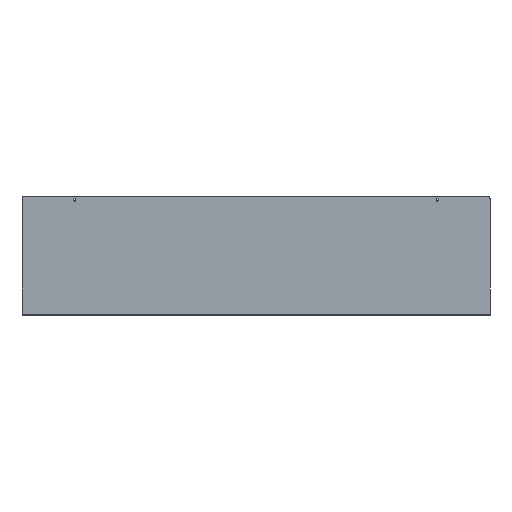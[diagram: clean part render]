
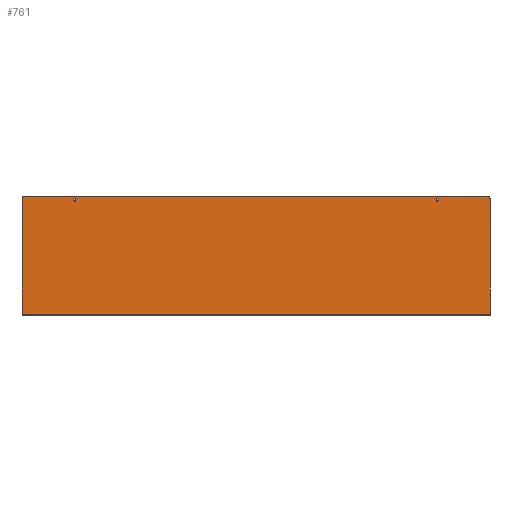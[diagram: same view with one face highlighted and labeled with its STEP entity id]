
A CAD part, top view. The second image highlights one B-rep face of the part: STEP entity #761.
In plain terms, the highlighted planar face has unit normal (0, 0, 1).
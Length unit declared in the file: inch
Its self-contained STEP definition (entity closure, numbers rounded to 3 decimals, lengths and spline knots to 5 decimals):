
#163=CARTESIAN_POINT('',(17.625,4.5,0.055));
#164=VERTEX_POINT('',#163);
#165=CARTESIAN_POINT('',(17.75,4.375,0.055));
#166=VERTEX_POINT('',#165);
#167=CARTESIAN_POINT('',(17.625,4.375,0.055));
#168=DIRECTION('',(0.0,0.0,-1.0));
#169=DIRECTION('',(0.707,0.707,0.0));
#170=AXIS2_PLACEMENT_3D('',#167,#168,#169);
#171=CIRCLE('',#170,0.125);
#172=EDGE_CURVE('',#164,#166,#171,.T.);
#214=CARTESIAN_POINT('',(-17.625,4.5,0.055));
#215=VERTEX_POINT('',#214);
#222=CARTESIAN_POINT('',(-17.625,4.5,0.055));
#223=DIRECTION('',(1.0,0.0,0.0));
#224=VECTOR('',#223,35.25);
#225=LINE('',#222,#224);
#226=EDGE_CURVE('',#215,#164,#225,.T.);
#299=CARTESIAN_POINT('',(-17.75,4.375,0.055));
#300=VERTEX_POINT('',#299);
#301=CARTESIAN_POINT('',(-17.625,4.375,0.055));
#302=DIRECTION('',(0.0,0.0,-1.0));
#303=DIRECTION('',(-0.707,0.707,0.0));
#304=AXIS2_PLACEMENT_3D('',#301,#302,#303);
#305=CIRCLE('',#304,0.125);
#306=EDGE_CURVE('',#300,#215,#305,.T.);
#326=CARTESIAN_POINT('',(-17.75,-4.414,0.055));
#327=VERTEX_POINT('',#326);
#334=CARTESIAN_POINT('',(-17.75,-4.414,0.055));
#335=DIRECTION('',(0.0,1.0,0.0));
#336=VECTOR('',#335,8.789);
#337=LINE('',#334,#336);
#338=EDGE_CURVE('',#327,#300,#337,.T.);
#558=CARTESIAN_POINT('',(-13.8385,4.25,0.055));
#559=VERTEX_POINT('',#558);
#560=CARTESIAN_POINT('',(-13.75,4.25,0.055));
#561=DIRECTION('',(0.0,0.0,-1.0));
#562=DIRECTION('',(1.0,0.0,0.0));
#563=AXIS2_PLACEMENT_3D('',#560,#561,#562);
#564=CIRCLE('',#563,0.0885);
#565=EDGE_CURVE('',#559,#559,#564,.T.);
#578=CARTESIAN_POINT('',(13.6615,4.25,0.055));
#579=VERTEX_POINT('',#578);
#580=CARTESIAN_POINT('',(13.75,4.25,0.055));
#581=DIRECTION('',(0.0,0.0,-1.0));
#582=DIRECTION('',(1.0,0.0,0.0));
#583=AXIS2_PLACEMENT_3D('',#580,#581,#582);
#584=CIRCLE('',#583,0.0885);
#585=EDGE_CURVE('',#579,#579,#584,.T.);
#647=CARTESIAN_POINT('',(17.75,-4.414,0.055));
#648=VERTEX_POINT('',#647);
#715=CARTESIAN_POINT('',(-17.75,-4.414,0.055));
#716=DIRECTION('',(1.0,0.0,0.0));
#717=VECTOR('',#716,35.5);
#718=LINE('',#715,#717);
#719=EDGE_CURVE('',#327,#648,#718,.T.);
#731=CARTESIAN_POINT('',(17.75,4.375,0.055));
#732=DIRECTION('',(0.0,-1.0,0.0));
#733=VECTOR('',#732,8.789);
#734=LINE('',#731,#733);
#735=EDGE_CURVE('',#166,#648,#734,.T.);
#742=CARTESIAN_POINT('',(0.0,0.,0.055));
#743=DIRECTION('',(0.0,0.0,1.0));
#744=DIRECTION('',(1.0,0.0,0.0));
#745=AXIS2_PLACEMENT_3D('',#742,#743,#744);
#746=PLANE('',#745);
#747=ORIENTED_EDGE('',*,*,#172,.F.);
#748=ORIENTED_EDGE('',*,*,#226,.F.);
#749=ORIENTED_EDGE('',*,*,#306,.F.);
#750=ORIENTED_EDGE('',*,*,#338,.F.);
#751=ORIENTED_EDGE('',*,*,#719,.T.);
#752=ORIENTED_EDGE('',*,*,#735,.F.);
#753=EDGE_LOOP('',(#747,#748,#749,#750,#751,#752));
#754=FACE_OUTER_BOUND('',#753,.T.);
#755=ORIENTED_EDGE('',*,*,#565,.T.);
#756=EDGE_LOOP('',(#755));
#757=FACE_BOUND('',#756,.T.);
#758=ORIENTED_EDGE('',*,*,#585,.T.);
#759=EDGE_LOOP('',(#758));
#760=FACE_BOUND('',#759,.T.);
#761=ADVANCED_FACE('',(#754,#757,#760),#746,.T.);
